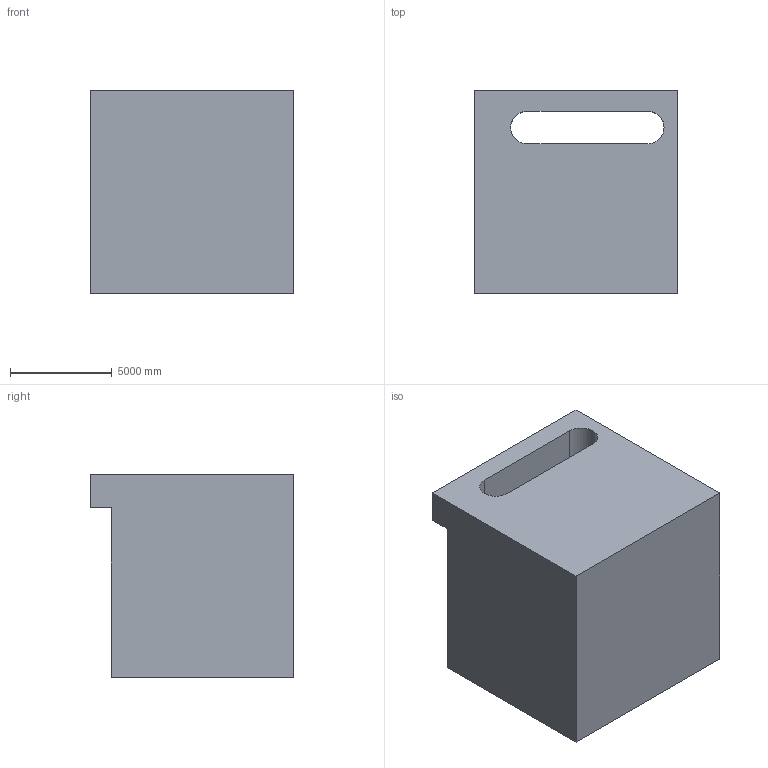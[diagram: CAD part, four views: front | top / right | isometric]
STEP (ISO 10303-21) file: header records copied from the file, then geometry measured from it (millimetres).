
FILE_DESCRIPTION (( 'STEP AP203' ), '1' );
FILE_NAME ('1098.STEP', '2022-08-18T12:45:10', ( 'user' ), ( '' ), 'SwSTEP 2.0', 'SolidWorks 2021', '' );
FILE_SCHEMA (( 'CONFIG_CONTROL_DESIGN' ));
Length unit declared in the file: centimetre
Products named in the file (1): 1098
Bounding box: 10000 x 10000 x 10000 mm (x, y, z)
Volume: 798013945518.6 mm3; surface area: 629415806.7 mm2
Topology: 1 solids, 1 shells, 14 faces, 37 edges, 24 vertices
Faces by surface type: plane 11, cylinder 3
Entity records: 512 total; most frequent: CARTESIAN_POINT 76, ORIENTED_EDGE 74, DIRECTION 73, EDGE_CURVE 37, VECTOR 31, LINE 31, VERTEX_POINT 24, AXIS2_PLACEMENT_3D 21
